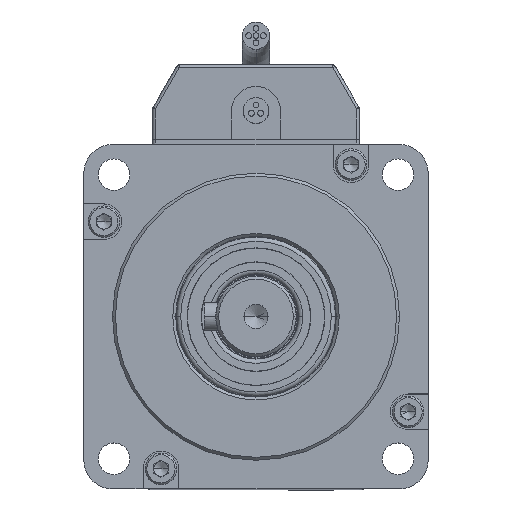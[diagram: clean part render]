
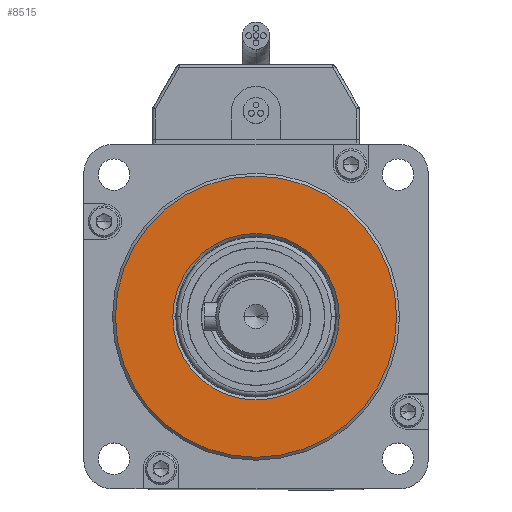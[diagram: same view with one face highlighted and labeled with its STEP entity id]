
A CAD part, top view. The second image highlights one B-rep face of the part: STEP entity #8515.
In plain terms, the highlighted planar face has unit normal (0, 0, 1).
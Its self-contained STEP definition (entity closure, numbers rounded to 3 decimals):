
#818 = EDGE_CURVE ( 'NONE', #17254, #7650, #11803, .T. ) ;
#1319 = CARTESIAN_POINT ( 'NONE',  ( 14.5, 0., 3. ) ) ;
#1913 = CARTESIAN_POINT ( 'NONE',  ( 0., 0., 3. ) ) ;
#2727 = CARTESIAN_POINT ( 'NONE',  ( 0., 0., 3. ) ) ;
#3078 = VERTEX_POINT ( 'NONE', #13030 ) ;
#3501 = AXIS2_PLACEMENT_3D ( 'NONE', #2727, #4005, #18236 ) ;
#3790 = FACE_OUTER_BOUND ( 'NONE', #5895, .T. ) ;
#3907 = CIRCLE ( 'NONE', #10597, 24.5 ) ;
#4005 = DIRECTION ( 'NONE',  ( 0., 0., -1. ) ) ;
#4550 = CARTESIAN_POINT ( 'NONE',  ( 0., 0., 3. ) ) ;
#5250 = FACE_BOUND ( 'NONE', #7457, .T. ) ;
#5895 = EDGE_LOOP ( 'NONE', ( #10712, #14323 ) ) ;
#6422 = EDGE_CURVE ( 'NONE', #13032, #3078, #13559, .T. ) ;
#6948 = PLANE ( 'NONE',  #14930 ) ;
#7396 = EDGE_CURVE ( 'NONE', #7650, #17254, #15218, .T. ) ;
#7457 = EDGE_LOOP ( 'NONE', ( #10810, #11451 ) ) ;
#7650 = VERTEX_POINT ( 'NONE', #19560 ) ;
#8515 = ADVANCED_FACE ( 'NONE', ( #5250, #3790 ), #6948, .T. ) ;
#8972 = EDGE_CURVE ( 'NONE', #3078, #13032, #3907, .T. ) ;
#9108 = AXIS2_PLACEMENT_3D ( 'NONE', #4550, #14096, #12507 ) ;
#9829 = DIRECTION ( 'NONE',  ( 0., 0., 1. ) ) ;
#10175 = DIRECTION ( 'NONE',  ( 1., 0., 0. ) ) ;
#10597 = AXIS2_PLACEMENT_3D ( 'NONE', #13094, #9829, #11628 ) ;
#10712 = ORIENTED_EDGE ( 'NONE', *, *, #6422, .T. ) ;
#10810 = ORIENTED_EDGE ( 'NONE', *, *, #818, .T. ) ;
#10861 = AXIS2_PLACEMENT_3D ( 'NONE', #15077, #19867, #11813 ) ;
#11451 = ORIENTED_EDGE ( 'NONE', *, *, #7396, .T. ) ;
#11628 = DIRECTION ( 'NONE',  ( 1., 0., 0. ) ) ;
#11803 = CIRCLE ( 'NONE', #9108, 14.5 ) ;
#11813 = DIRECTION ( 'NONE',  ( 1., 0., 0. ) ) ;
#12507 = DIRECTION ( 'NONE',  ( 1., 0., 0. ) ) ;
#13030 = CARTESIAN_POINT ( 'NONE',  ( 24.5, 0., 3. ) ) ;
#13032 = VERTEX_POINT ( 'NONE', #15237 ) ;
#13094 = CARTESIAN_POINT ( 'NONE',  ( 0., 0., 3. ) ) ;
#13559 = CIRCLE ( 'NONE', #10861, 24.5 ) ;
#14096 = DIRECTION ( 'NONE',  ( 0., 0., -1. ) ) ;
#14323 = ORIENTED_EDGE ( 'NONE', *, *, #8972, .T. ) ;
#14930 = AXIS2_PLACEMENT_3D ( 'NONE', #1913, #18241, #10175 ) ;
#15077 = CARTESIAN_POINT ( 'NONE',  ( 0., 0., 3. ) ) ;
#15218 = CIRCLE ( 'NONE', #3501, 14.5 ) ;
#15237 = CARTESIAN_POINT ( 'NONE',  ( -24.5, 0., 3. ) ) ;
#17254 = VERTEX_POINT ( 'NONE', #1319 ) ;
#18236 = DIRECTION ( 'NONE',  ( 1., 0., 0. ) ) ;
#18241 = DIRECTION ( 'NONE',  ( 0., 0., 1. ) ) ;
#19560 = CARTESIAN_POINT ( 'NONE',  ( -14.5, 0., 3. ) ) ;
#19867 = DIRECTION ( 'NONE',  ( 0., 0., 1. ) ) ;
